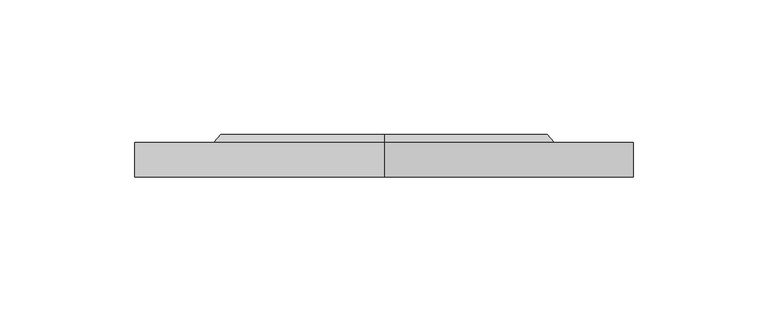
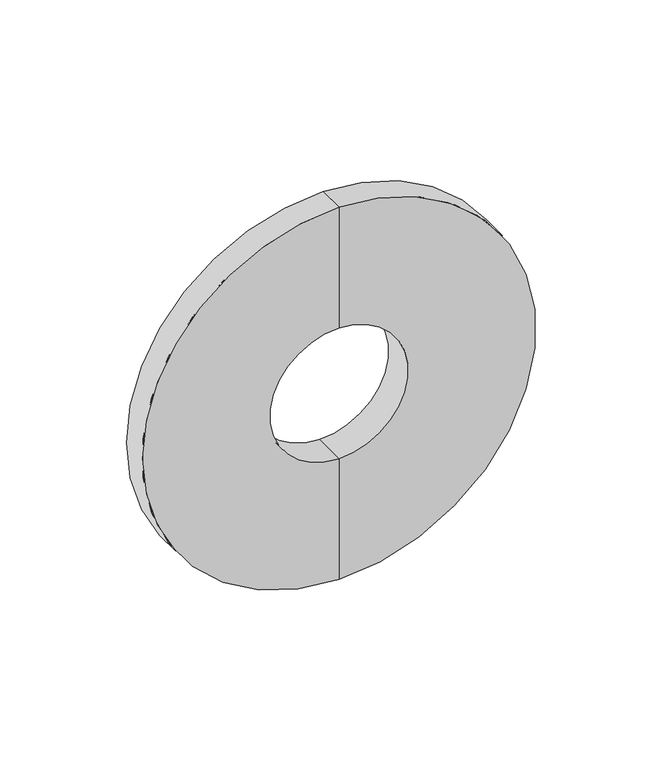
"""IFC4 building model written with IfcOpenShell, lengths in millimetres: pipe fitting geometry, Фланец : Фланец."""

import ifcopenshell
import ifcopenshell.guid

model = None  # the IFC model being written
_history = None  # IfcOwnerHistory: only IFC2X3 demands one
_inside = {}  # id of a spatial element -> (the spatial element, [elements in it])
_under = {}  # id of a project, library or spatial element -> (it, [spatial elements below it])
_declared = {}  # id of a project -> (the project, [libraries it declares])
_typed = {}  # id of a type object -> (the type object, [elements of that type])
_made_of = {}  # id of a material, layer set ... -> (it, [elements and type objects made of it])


def new_model(schema):
    """Start an empty IFC model of exactly this schema.

    Asked for "IFC4X3", IfcOpenShell would pick the latest addendum, in which some entities
    have other attributes; the version numbers below select the first issue.
    IFC2X3 requires an IfcOwnerHistory on every rooted entity: one is made here for all.
    """
    global model, _history
    if schema == "IFC4X3":
        model = ifcopenshell.file(schema_version=(4, 3, 0, 0))
    else:
        model = ifcopenshell.file(schema=schema)
    _inside.clear()
    _under.clear()
    _declared.clear()
    _typed.clear()
    _made_of.clear()
    _history = None
    if model.schema == "IFC2X3":
        org = make("IfcOrganization", Name="unknown")
        user = make(
            "IfcPersonAndOrganization",
            ThePerson=make("IfcPerson", FamilyName="unknown"),
            TheOrganization=org,
        )
        app = make(
            "IfcApplication",
            ApplicationDeveloper=org,
            Version="unknown",
            ApplicationFullName="unknown",
            ApplicationIdentifier="unknown",
        )
        _history = make(
            "IfcOwnerHistory",
            OwningUser=user,
            OwningApplication=app,
            ChangeAction="ADDED",
            CreationDate=0,
        )
    return model


def make(cls, **values):
    """One entity of the class cls with the attributes given. An attribute that is None is left unset."""
    return model.create_entity(
        cls, **{name: value for name, value in values.items() if value is not None}
    )


def rooted(cls, **values):
    """An entity with a GlobalId (a new one), such as an element, a storey or a relation."""
    return make(cls, GlobalId=ifcopenshell.guid.new(), OwnerHistory=_history, **values)


def si_unit(unit_type, name, prefix=None):
    """IfcSIUnit, for example si_unit("LENGTHUNIT", "METRE", prefix="MILLI")."""
    return make("IfcSIUnit", UnitType=unit_type, Prefix=prefix, Name=name)


def assignment(units):
    """IfcUnitAssignment: the units of a project."""
    return None if units is None else make("IfcUnitAssignment", Units=units)


def point(xyz):
    """IfcCartesianPoint."""
    return None if xyz is None else make("IfcCartesianPoint", Coordinates=xyz)


def direction(xyz):
    """IfcDirection."""
    return None if xyz is None else make("IfcDirection", DirectionRatios=xyz)


def frame(location, z_axis=None, x_axis=None):
    """IfcAxis2Placement3D, a coordinate frame: its origin and axes. An axis left out is left unset."""
    return make(
        "IfcAxis2Placement3D",
        Location=point(location),
        Axis=direction(z_axis),
        RefDirection=direction(x_axis),
    )


def origin():
    """The frame at (0, 0, 0) with its axes left unset."""
    return frame((0.0, 0.0, 0.0))


def place(relative_to, where):
    """IfcLocalPlacement: puts the frame where relative to a parent placement (None: the world)."""
    return make(
        "IfcLocalPlacement", PlacementRelTo=relative_to, RelativePlacement=where
    )


def context(
    kind, dimensions, precision=None, world=None, true_north=None, identifier=None
):
    """IfcGeometricRepresentationContext, for example the 3D "Model" context."""
    return make(
        "IfcGeometricRepresentationContext",
        ContextIdentifier=identifier,
        ContextType=kind,
        CoordinateSpaceDimension=dimensions,
        Precision=precision,
        WorldCoordinateSystem=world,
        TrueNorth=true_north,
    )


def project(units=None, contexts=None):
    """IfcProject with its units and contexts."""
    return rooted(
        "IfcProject",
        Name="project",
        RepresentationContexts=contexts,
        UnitsInContext=assignment(units),
    )


def spatial(cls, under=None, at=None, **own):
    """A site, building, storey or space (cls), placed at a placement, below another one or the project."""
    s = rooted(cls, ObjectPlacement=at, **own)
    if under is not None:
        _under.setdefault(under.id(), (under, []))[1].append(s)
    return s


def polyline(points):
    """IfcPolyline through the points."""
    return make("IfcPolyline", Points=[point(p) for p in points])


def circle_curve(where, radius):
    """IfcCircle in the frame where."""
    return make("IfcCircle", Position=where, Radius=radius)


def shape(context_of_items, identifier, shape_type, items):
    """IfcShapeRepresentation: the items that make up one representation, for example the "Body"."""
    return make(
        "IfcShapeRepresentation",
        ContextOfItems=context_of_items,
        RepresentationIdentifier=identifier,
        RepresentationType=shape_type,
        Items=items,
    )


def source(mapping_origin, context_of_items, identifier, shape_type, items):
    """IfcRepresentationMap: a shape defined once, which mapped items show again and again."""
    return make(
        "IfcRepresentationMap",
        MappingOrigin=mapping_origin,
        MappedRepresentation=shape(context_of_items, identifier, shape_type, items),
    )


def transform(
    local_origin,
    x_axis=None,
    y_axis=None,
    z_axis=None,
    scale=None,
    scale2=None,
    scale3=None,
    uniform=True,
):
    """IfcCartesianTransformationOperator3D, or its non-uniform kind. x_axis, y_axis, z_axis: its Axis1, 2, 3."""
    if uniform:
        return make(
            "IfcCartesianTransformationOperator3D",
            Axis1=direction(x_axis),
            Axis2=direction(y_axis),
            LocalOrigin=point(local_origin),
            Scale=scale,
            Axis3=direction(z_axis),
        )
    return make(
        "IfcCartesianTransformationOperator3DnonUniform",
        Axis1=direction(x_axis),
        Axis2=direction(y_axis),
        LocalOrigin=point(local_origin),
        Scale=scale,
        Axis3=direction(z_axis),
        Scale2=scale2,
        Scale3=scale3,
    )


def mapped(mapping_source, mapping_target):
    """IfcMappedItem: shows the shape of a source again, moved by a transform."""
    return make(
        "IfcMappedItem", MappingSource=mapping_source, MappingTarget=mapping_target
    )


def made_of(thing, what):
    """Note that an element or type object is made of a material, layer set ...; save() writes the relation."""
    if what is not None:
        _made_of.setdefault(what.id(), (what, []))[1].append(thing)
    return thing


def element(
    cls,
    number,
    at=None,
    inside=None,
    cuts=None,
    type_object=None,
    material=None,
    context=None,
    identifier="Body",
    shape_type=None,
    held_by="IfcProductDefinitionShape",
    body=None,
    shapes=None,
    **own,
):
    """One element of the class cls, such as IfcWall. Its Tag is "e" and its number.

    at: its placement. inside: the storey or other place that contains it. cuts: it is an
    opening in that element (IfcRelVoidsElement). A single representation is given by context,
    identifier, shape_type and body (its items); several are given by shapes. held_by: the class
    of the entity that holds the representations. save() writes the other relations.
    """
    e = rooted(cls, Tag="e%d" % number, ObjectPlacement=at, **own)
    if body is not None:
        shapes = [shape(context, identifier, shape_type, body)]
    if shapes is not None:
        e.Representation = make(held_by, Representations=shapes)
    if inside is not None:
        _inside.setdefault(inside.id(), (inside, []))[1].append(e)
    if cuts is not None:
        rooted(
            "IfcRelVoidsElement", RelatingBuildingElement=cuts, RelatedOpeningElement=e
        )
    if type_object is not None:
        _typed.setdefault(type_object.id(), (type_object, []))[1].append(e)
    return made_of(e, material)


def aggregate(whole, parts):
    """IfcRelAggregates: a whole, such as a stair, and the parts it consists of."""
    return rooted("IfcRelAggregates", RelatingObject=whole, RelatedObjects=parts)


def save(model, path):
    """Write the relations noted so far, then the file.

    IfcRelAggregates (storeys below a building ...), IfcRelContainedInSpatialStructure (elements
    in a storey), IfcRelDefinesByType, IfcRelAssociatesMaterial and IfcRelDeclares: one each for
    every whole, place, type object, material and project.
    """
    for whole, parts in _under.values():
        aggregate(whole, parts)
    for where, things in _inside.values():
        rooted(
            "IfcRelContainedInSpatialStructure",
            RelatedElements=things,
            RelatingStructure=where,
        )
    for kind, things in _typed.values():
        rooted("IfcRelDefinesByType", RelatedObjects=things, RelatingType=kind)
    for what, things in _made_of.values():
        rooted("IfcRelAssociatesMaterial", RelatedObjects=things, RelatingMaterial=what)
    for by, libraries in _declared.values():
        rooted("IfcRelDeclares", RelatingContext=by, RelatedDefinitions=libraries)
    model.write(path)


def plane_surface(at):
    """IfcPlane: the flat surface through the origin of the frame at, square to its z axis."""
    return make("IfcPlane", Position=at)


def cylinder_surface(at, radius):
    """IfcCylindricalSurface: all points at the distance radius from the z axis of the frame at."""
    return make("IfcCylindricalSurface", Position=at, Radius=radius)


def revolved_surface(curve, axis_point, axis_direction):
    """IfcSurfaceOfRevolution: the curve turned about the line through axis_point along axis_direction."""
    return make(
        "IfcSurfaceOfRevolution",
        SweptCurve=make("IfcArbitraryOpenProfileDef", ProfileType="CURVE", Curve=curve),
        AxisPosition=make("IfcAxis1Placement", Location=point(axis_point), Axis=direction(axis_direction)),
    )


def advanced_brep(points, edges, surfaces, faces):
    """IfcAdvancedBrep: a solid bounded by faces that lie on surfaces and meet in shared edges.

    An edge is (start, end): straight between two places in points (the first is 0);
    or (start, end, curve); or (start, end, curve, False) where it runs against its curve.
    A face is (place in surfaces, loops), or (place, loops, False) where it looks against
    its surface's normal. A loop lists edges by number (the first is 1), with a minus sign
    where the edge is run from its end to its start. The first loop is the outer one.
    """
    corners = [point(p) for p in points]
    vertices = [make("IfcVertexPoint", VertexGeometry=c) for c in corners]
    made = []
    for start, end, *more in edges:
        made.append(
            make(
                "IfcEdgeCurve",
                EdgeStart=vertices[start],
                EdgeEnd=vertices[end],
                EdgeGeometry=more[0] if more else make("IfcPolyline", Points=[corners[start], corners[end]]),
                SameSense=more[1] if len(more) > 1 else True,
            )
        )
    hull = []
    for where, loops, *sense in faces:
        bounds = []
        for j, loop in enumerate(loops):
            ring = [make("IfcOrientedEdge", EdgeElement=made[abs(k) - 1], Orientation=k > 0) for k in loop]
            bounds.append(
                make(
                    "IfcFaceOuterBound" if j == 0 else "IfcFaceBound",
                    Bound=make("IfcEdgeLoop", EdgeList=ring),
                    Orientation=True,
                )
            )
        hull.append(make("IfcAdvancedFace", Bounds=bounds, FaceSurface=surfaces[where], SameSense=sense[0] if sense else True))
    return make("IfcAdvancedBrep", Outer=make("IfcClosedShell", CfsFaces=hull))


def pipe_fitting_9c8cf8b4(model_context):
    return source(origin(), model_context, "Body", "AdvancedBrep", [
        advanced_brep(
        [(0.0, 0.0, -92.5), (0.0, 0.0, 92.5), (0.0, 12.8, 92.5), (0.0, 12.8, -92.5), (0.0, 0.0, -32.5), (0.0, 0.0, 32.5), (0.0, 15.8, -32.5), (0.0, 15.8, 32.5), (0.0, 15.8, -61.0), (0.0, 15.8, 61.0), (0.0, 12.8, -63.5), (0.0, 12.8, 63.5)],
        [
            (0, 1, circle_curve(frame((0.0, 0.0, 0.0), z_axis=(0.0, 1.0, 0.0), x_axis=(0.0, 0.0, 1.0)), 92.5)),
            (1, 2),
            (2, 3, circle_curve(frame((0.0, 12.8, 0.0), z_axis=(0.0, -1.0, 0.0), x_axis=(0.0, 0.0, 1.0)), 92.5)),
            (3, 0),
            (1, 0, circle_curve(frame((0.0, 0.0, 0.0), z_axis=(0.0, 1.0, 0.0), x_axis=(0.0, 0.0, 1.0)), 92.5)),
            (3, 2, circle_curve(frame((0.0, 12.8, 0.0), z_axis=(0.0, -1.0, 0.0), x_axis=(0.0, 0.0, 1.0)), 92.5)),
            (4, 5, circle_curve(frame((0.0, 0.0, 0.0), z_axis=(0.0, 1.0, 0.0), x_axis=(0.0, 0.0, 1.0)), 32.5)),
            (5, 1),
            (0, 4),
            (5, 4, circle_curve(frame((0.0, 0.0, 0.0), z_axis=(0.0, 1.0, 0.0), x_axis=(0.0, 0.0, 1.0)), 32.5)),
            (6, 7, circle_curve(frame((0.0, 15.8, 0.0), z_axis=(0.0, 1.0, 0.0), x_axis=(0.0, 0.0, 1.0)), 32.5)),
            (7, 5),
            (4, 6),
            (7, 6, circle_curve(frame((0.0, 15.8, 0.0), z_axis=(0.0, 1.0, 0.0), x_axis=(0.0, 0.0, 1.0)), 32.5)),
            (8, 9, circle_curve(frame((0.0, 15.8, 0.0), z_axis=(0.0, 1.0, 0.0), x_axis=(0.0, 0.0, 1.0)), 61.0)),
            (9, 7),
            (6, 8),
            (9, 8, circle_curve(frame((0.0, 15.8, 0.0), z_axis=(0.0, 1.0, 0.0), x_axis=(0.0, 0.0, 1.0)), 61.0)),
            (10, 11, circle_curve(frame((0.0, 12.8, 0.0), z_axis=(0.0, 1.0, 0.0), x_axis=(0.0, 0.0, 1.0)), 63.5)),
            (11, 9),
            (8, 10),
            (11, 10, circle_curve(frame((0.0, 12.8, 0.0), z_axis=(0.0, 1.0, 0.0), x_axis=(0.0, 0.0, 1.0)), 63.5)),
            (2, 11),
            (10, 3),
        ],
        [
            cylinder_surface(frame((0.0, -60.0, 0.0), z_axis=(0.0, -1.0, 0.0), x_axis=(0.0, 0.0, 1.0)), 92.5),
            plane_surface(frame((0.0, 0.0, 0.0), z_axis=(0.0, -1.0, 0.0), x_axis=(0.0, 0.0, 1.0))),
            revolved_surface(polyline([(0.0, 0.0, 32.5), (0.0, 15.799999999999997, 32.5)]), (0.0, -60.0, 0.0), (0.0, -1.0, 0.0)),
            plane_surface(frame((0.0, 15.8, 0.0), z_axis=(0.0, 1.0, 0.0), x_axis=(0.0, 0.0, 1.0))),
            revolved_surface(polyline([(0.0, 15.8, 61.0), (0.0, 12.8, 63.5)]), (0.0, -60.0, 0.0), (0.0, -1.0, 0.0)),
            plane_surface(frame((0.0, 12.8, 0.0), z_axis=(0.0, 1.0, 0.0), x_axis=(0.0, 0.0, 1.0))),
        ],
        [
            (0, [[1, 2, 3, 4]]),
            (0, [[5, -4, 6, -2]]),
            (1, [[7, 8, -1, 9]]),
            (1, [[10, -9, -5, -8]]),
            (2, [[11, 12, -7, 13]]),
            (2, [[14, -13, -10, -12]]),
            (3, [[15, 16, -11, 17]]),
            (3, [[18, -17, -14, -16]]),
            (4, [[19, 20, -15, 21]]),
            (4, [[22, -21, -18, -20]]),
            (5, [[-3, 23, -19, 24]]),
            (5, [[-6, -24, -22, -23]]),
        ],
    ),
    ])


if __name__ == "__main__":
    model = new_model("IFC4")
    model_context = context("Model", 3, world=origin())
    ifc_project = project(units=[si_unit("LENGTHUNIT", "METRE", prefix="MILLI")], contexts=[model_context])
    site = spatial("IfcSite", under=ifc_project)
    building = spatial("IfcBuilding", under=site)
    placement = place(None, origin())
    pipe_fitting_shape = pipe_fitting_9c8cf8b4(model_context)
    element("IfcPipeFitting", 1, ObjectType="Фланец : Фланец", at=placement, inside=building, context=model_context, shape_type="MappedRepresentation", body=[
        mapped(pipe_fitting_shape, transform((0.0, 0.0, 0.0), x_axis=(1.0, 0.0, 0.0), y_axis=(0.0, 1.0, 0.0), z_axis=(0.0, 0.0, 1.0))),
    ])
    save(model, "model.ifc")
